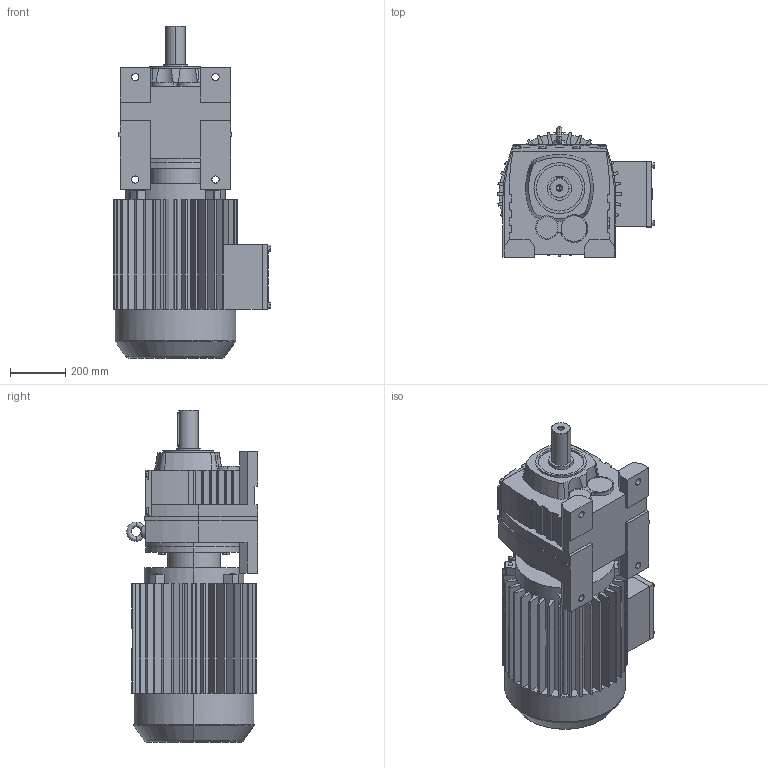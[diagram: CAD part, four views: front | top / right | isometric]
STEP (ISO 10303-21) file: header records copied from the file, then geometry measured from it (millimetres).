
FILE_DESCRIPTION(('Open CASCADE Model'),'2;1');
FILE_NAME('Open CASCADE Shape Model','2021-07-06T16:59:07',('Author'),( 'Open CASCADE'),'Open CASCADE STEP processor 6.3','Open CASCADE 6.3' ,'Unknown');
FILE_SCHEMA(('AUTOMOTIVE_DESIGN_CC2 { 1 2 10303 214 -1 1 5 4 }'));
Length unit declared in the file: millimetre
Products named in the file (3): 1_R107-Y225M; R37‵167_107.step; 萇儂_350_Y225M.step
Assembly tree (2 placements, depth 2):
  1_R107-Y225M
    R37‵167_107.step
    萇儂_350_Y225M.step
Bounding box: 570 x 473.5 x 1200 mm (x, y, z)
Volume: 137198522.2 mm3; surface area: 3516401.7 mm2
Topology: 2 solids, 2 shells, 736 faces, 1954 edges, 1263 vertices
Faces by surface type: plane 521, cylinder 185, cone 20, torus 10
Entity records: 51003 total; most frequent: CARTESIAN_POINT 13723, DIRECTION 6501, ORIENTED_EDGE 3904, PCURVE 3904, DEFINITIONAL_REPRESENTATION 3904, LINE 3641, VECTOR 3641, EDGE_CURVE 1952
